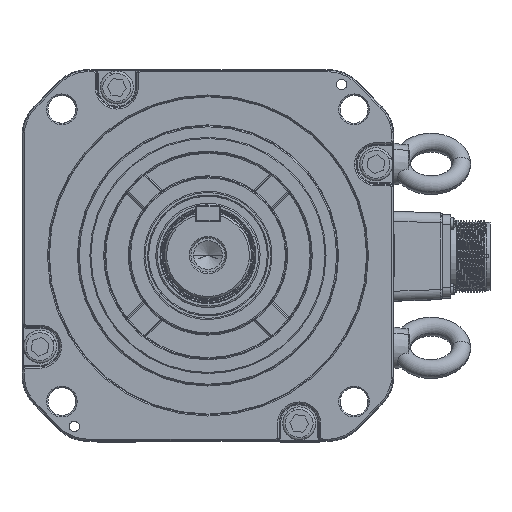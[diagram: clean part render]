
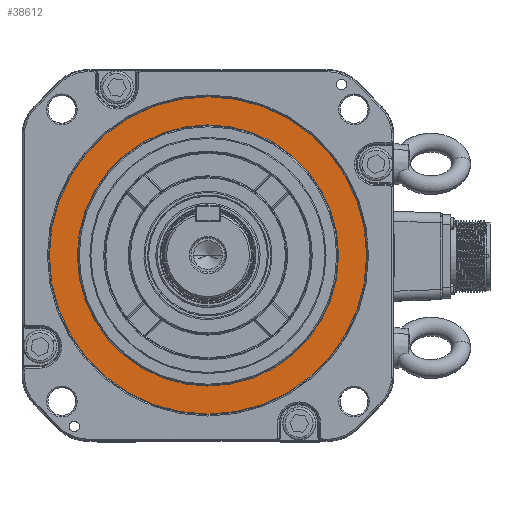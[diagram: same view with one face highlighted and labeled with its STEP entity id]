
A CAD part, top view. The second image highlights one B-rep face of the part: STEP entity #38612.
In plain terms, the highlighted planar face has unit normal (0, 0, 1).
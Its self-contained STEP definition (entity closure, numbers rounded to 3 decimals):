
#3780 = ORIENTED_EDGE ( 'NONE', *, *, #33607, .T. ) ;
#9936 = CARTESIAN_POINT ( 'NONE',  ( 76.793, 0., -3.7 ) ) ;
#19631 = AXIS2_PLACEMENT_3D ( 'NONE', #29327, #79325, #54115 ) ;
#20698 = ORIENTED_EDGE ( 'NONE', *, *, #68847, .T. ) ;
#22865 = DIRECTION ( 'NONE',  ( -1., 0., 0. ) ) ;
#27172 = DIRECTION ( 'NONE',  ( -1., 0., 0. ) ) ;
#28482 = CIRCLE ( 'NONE', #42554, 76.793 ) ;
#29327 = CARTESIAN_POINT ( 'NONE',  ( 0., 0., -3.7 ) ) ;
#32187 = DIRECTION ( 'NONE',  ( 0., 0., 1. ) ) ;
#33607 = EDGE_CURVE ( 'NONE', #58887, #106331, #103925, .T. ) ;
#35376 = DIRECTION ( 'NONE',  ( -1., 0., 0. ) ) ;
#38073 = EDGE_CURVE ( 'NONE', #81223, #54497, #28482, .T. ) ;
#38612 = ADVANCED_FACE ( 'NONE', ( #85155, #41829 ), #67665, .F. ) ;
#38898 = AXIS2_PLACEMENT_3D ( 'NONE', #51726, #66025, #101190 ) ;
#41829 = FACE_BOUND ( 'NONE', #95655, .T. ) ;
#42554 = AXIS2_PLACEMENT_3D ( 'NONE', #66278, #32187, #22865 ) ;
#50652 = EDGE_CURVE ( 'NONE', #106331, #58887, #103073, .T. ) ;
#51008 = CARTESIAN_POINT ( 'NONE',  ( 63.207, 0., -3.7 ) ) ;
#51295 = AXIS2_PLACEMENT_3D ( 'NONE', #61822, #77147, #27172 ) ;
#51726 = CARTESIAN_POINT ( 'NONE',  ( 0., 77., -3.7 ) ) ;
#52448 = DIRECTION ( 'NONE',  ( 0., 0., -1. ) ) ;
#54115 = DIRECTION ( 'NONE',  ( -1., 0., 0. ) ) ;
#54497 = VERTEX_POINT ( 'NONE', #108235 ) ;
#55659 = AXIS2_PLACEMENT_3D ( 'NONE', #67829, #52448, #35376 ) ;
#58887 = VERTEX_POINT ( 'NONE', #51008 ) ;
#61822 = CARTESIAN_POINT ( 'NONE',  ( 0., 0., -3.7 ) ) ;
#66025 = DIRECTION ( 'NONE',  ( 0., 0., -1. ) ) ;
#66278 = CARTESIAN_POINT ( 'NONE',  ( 0., 0., -3.7 ) ) ;
#67665 = PLANE ( 'NONE',  #38898 ) ;
#67829 = CARTESIAN_POINT ( 'NONE',  ( 0., 0., -3.7 ) ) ;
#68847 = EDGE_CURVE ( 'NONE', #54497, #81223, #89764, .T. ) ;
#77147 = DIRECTION ( 'NONE',  ( 0., 0., -1. ) ) ;
#79325 = DIRECTION ( 'NONE',  ( 0., 0., 1. ) ) ;
#81223 = VERTEX_POINT ( 'NONE', #9936 ) ;
#85155 = FACE_OUTER_BOUND ( 'NONE', #104964, .T. ) ;
#89764 = CIRCLE ( 'NONE', #19631, 76.793 ) ;
#95655 = EDGE_LOOP ( 'NONE', ( #108624, #3780 ) ) ;
#97316 = ORIENTED_EDGE ( 'NONE', *, *, #38073, .T. ) ;
#98312 = CARTESIAN_POINT ( 'NONE',  ( -63.207, 0., -3.7 ) ) ;
#101190 = DIRECTION ( 'NONE',  ( -1., 0., 0. ) ) ;
#103073 = CIRCLE ( 'NONE', #55659, 63.207 ) ;
#103925 = CIRCLE ( 'NONE', #51295, 63.207 ) ;
#104964 = EDGE_LOOP ( 'NONE', ( #20698, #97316 ) ) ;
#106331 = VERTEX_POINT ( 'NONE', #98312 ) ;
#108235 = CARTESIAN_POINT ( 'NONE',  ( -76.793, 0., -3.7 ) ) ;
#108624 = ORIENTED_EDGE ( 'NONE', *, *, #50652, .T. ) ;
